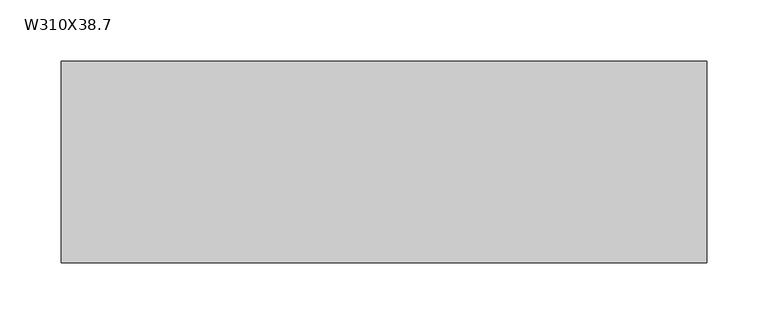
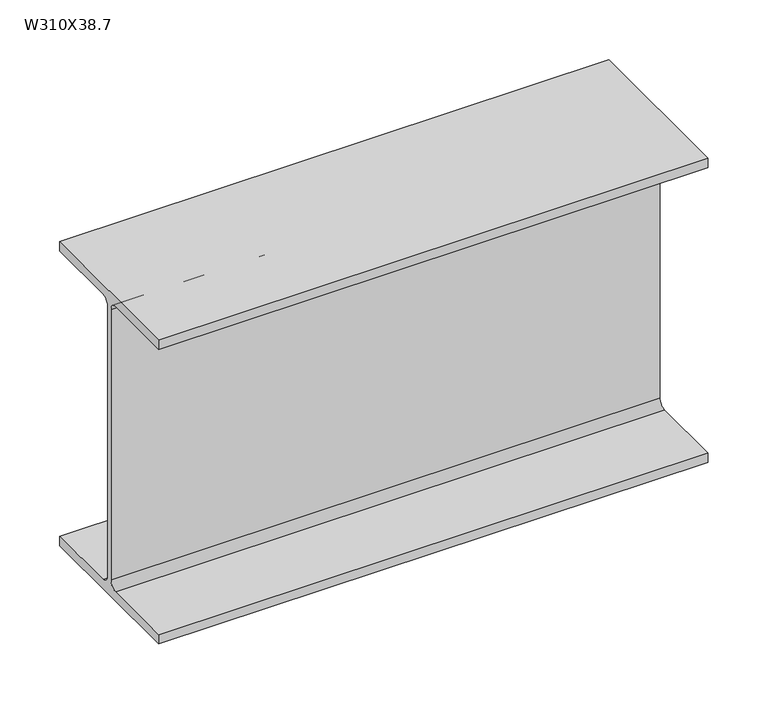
"""IFC4 building model written with IfcOpenShell, lengths in millimetres: beam geometry, M_W Формы : W310X38.7."""

from ifc_helpers import new_model, si_unit, point, frame, frame_2d, origin, place, context, project, spatial, polyline, circle_curve, trimmed, segment, composite_curve, outline, extrude, source, transform, mapped, element, save


def w310x38_7_043bb963(model_context):
    return source(origin(), model_context, "Body", "SweptSolid", [
        extrude(outline(composite_curve([segment(polyline([(82.5, -145.35), (82.5, -155.0), (-82.5, -155.0), (-82.5, -145.35), (-10.57, -145.35)]), True, "CONTINUOUS"), segment(trimmed(circle_curve(frame_2d((-10.57, -137.7)), 7.65), [point((-10.57, -145.35))], [point((-2.92, -137.7))], True, "CARTESIAN"), True, "CONTINUOUS"), segment(polyline([(-2.92, -137.7), (-2.92, 137.7)]), True, "CONTINUOUS"), segment(trimmed(circle_curve(frame_2d((-10.57, 137.7)), 7.65), [point((-2.92, 137.7))], [point((-10.57, 145.35))], True, "CARTESIAN"), True, "CONTINUOUS"), segment(polyline([(-10.57, 145.35), (-82.5, 145.35), (-82.5, 155.0), (82.5, 155.0), (82.5, 145.35), (10.57, 145.35)]), True, "CONTINUOUS"), segment(trimmed(circle_curve(frame_2d((10.57, 137.7)), 7.65), [point((10.57, 145.35))], [point((2.92, 137.7))], True, "CARTESIAN"), True, "CONTINUOUS"), segment(polyline([(2.92, 137.7), (2.92, -137.7)]), True, "CONTINUOUS"), segment(trimmed(circle_curve(frame_2d((10.57, -137.7)), 7.65), [point((2.92, -137.7))], [point((10.57, -145.35))], True, "CARTESIAN"), True, "CONTINUOUS"), segment(polyline([(10.57, -145.35), (82.5, -145.35)]), True, "CONTINUOUS")], self_intersect=False)), frame((-201.5, 0.0, 0.0), z_axis=(1.0, 0.0, 0.0), x_axis=(0.0, 1.0, 0.0)), (0.0, 0.0, 1.0), 529.0),
    ])


if __name__ == "__main__":
    model = new_model("IFC4")
    model_context = context("Model", 3, world=origin())
    ifc_project = project(units=[si_unit("LENGTHUNIT", "METRE", prefix="MILLI")], contexts=[model_context])
    site = spatial("IfcSite", under=ifc_project)
    building = spatial("IfcBuilding", under=site)
    placement = place(None, origin())
    w310x38_7_shape = w310x38_7_043bb963(model_context)
    element("IfcBeam", 1, ObjectType="M_W Формы : W310X38.7", at=placement, inside=building, context=model_context, shape_type="MappedRepresentation", body=[
        mapped(w310x38_7_shape, transform((0.0, 0.0, 0.0), x_axis=(1.0, 0.0, 0.0), y_axis=(0.0, 1.0, 0.0), z_axis=(0.0, 0.0, 1.0))),
    ])
    save(model, "model.ifc")
